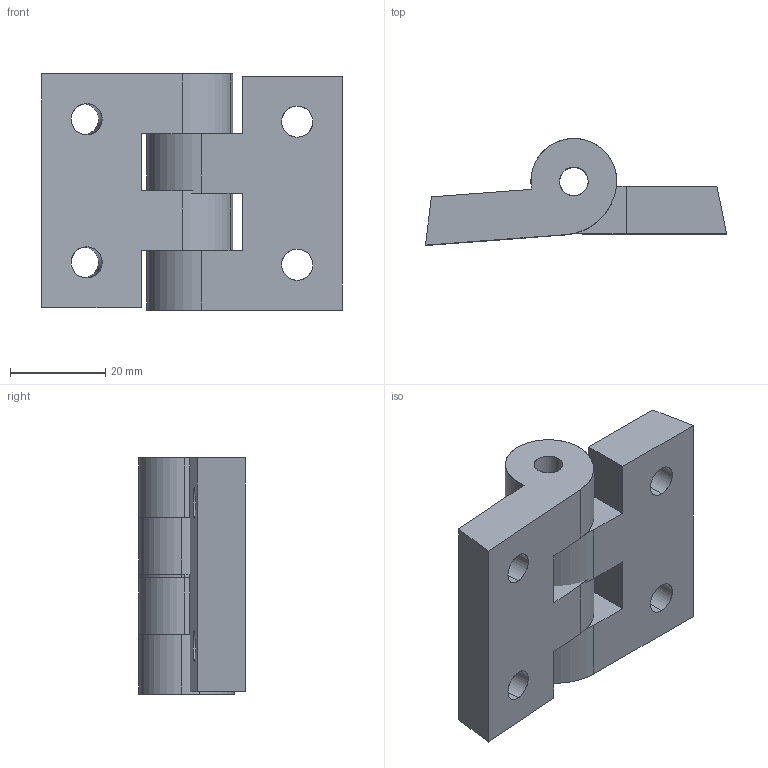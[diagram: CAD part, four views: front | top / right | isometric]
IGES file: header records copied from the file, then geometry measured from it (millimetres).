
Start section: SolidWorks IGES file using analytic representation for surfaces
Global section: file name: C:\Documents and Settings\ARGE\Desktop\yeni katalog tolgay düzenli\B kataloðu\plastik menteþe 49x65\export\215 000 105.IGS; native system: SolidWorks 2006 by SolidWorks Corporation; preprocessor: SolidWorks 2006 by SolidWorks Corporation; author: ARGE2; date: 060912.095928; units: millimetre
Bounding box: 63.09 x 22.36 x 49.5 mm (x, y, z)
Surface area: 12875.5 mm2 (no closed solid volume)
Topology: 0 solids, 0 shells, 52 faces, 952 edges, 952 vertices
Faces by surface type: revolution 32, bspline 20
